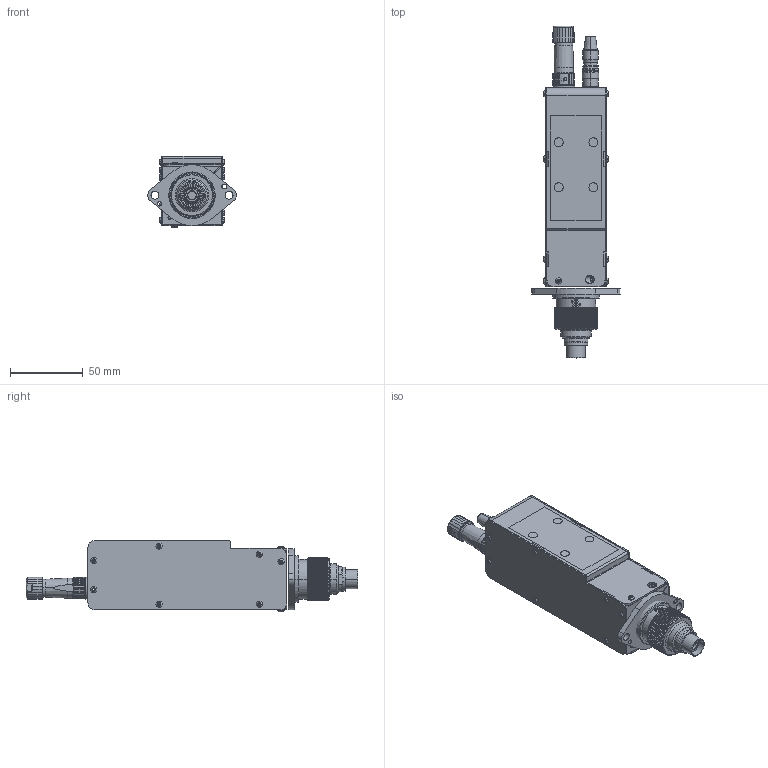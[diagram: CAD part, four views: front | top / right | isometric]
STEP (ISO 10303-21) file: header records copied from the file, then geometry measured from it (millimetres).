
FILE_DESCRIPTION (( 'STEP AP203' ), '1' );
FILE_NAME ('BLFA-5000_•”ŠOŒü‚¯.STEP', '2025-09-29T06:28:41', ( '' ), ( '' ), 'SwSTEP 2.0', 'SolidWorks 2023', '' );
FILE_SCHEMA (( 'CONFIG_CONTROL_DESIGN' ));
Length unit declared in the file: millimetre
Products named in the file (1): BLFA-5000_部外向け
Bounding box: 60.98 x 228.63 x 49.21 mm (x, y, z)
Surface area: 60428.3 mm2 (no closed solid volume)
Topology: 0 solids, 66 shells, 1184 faces, 4273 edges, 2979 vertices
Faces by surface type: cylinder 440, plane 423, cone 220, torus 84, bspline 17
Entity records: 52564 total; most frequent: CARTESIAN_POINT 17863, DIRECTION 7126, ORIENTED_EDGE 6669, EDGE_CURVE 4271, VERTEX_POINT 2979, AXIS2_PLACEMENT_3D 2784, CIRCLE 1616, VECTOR 1558
